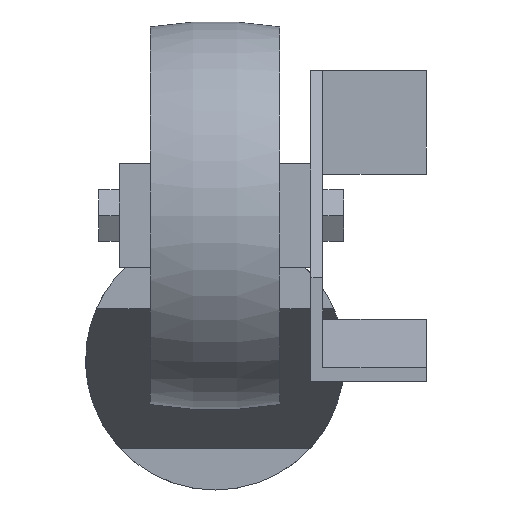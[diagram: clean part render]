
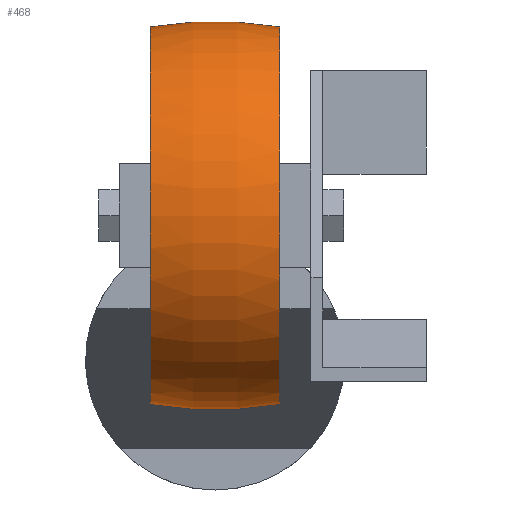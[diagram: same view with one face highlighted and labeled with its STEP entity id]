
A CAD part, front view. The second image highlights one B-rep face of the part: STEP entity #468.
In plain terms, the highlighted toroidal (fillet/blend) face has major radius 37.5 mm and minor radius 75 mm.
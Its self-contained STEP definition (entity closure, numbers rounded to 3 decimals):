
#5 = VERTEX_POINT ( 'NONE', #191 ) ;
#58 = ORIENTED_EDGE ( 'NONE', *, *, #850, .F. ) ;
#103 = AXIS2_PLACEMENT_3D ( 'NONE', #588, #443, #187 ) ;
#137 = CARTESIAN_POINT ( 'NONE',  ( 0., -61.5, 28. ) ) ;
#159 = DIRECTION ( 'NONE',  ( 0., 0., 1. ) ) ;
#187 = DIRECTION ( 'NONE',  ( 0., 0., 1. ) ) ;
#191 = CARTESIAN_POINT ( 'NONE',  ( 12.5, -61.5, -8.451 ) ) ;
#208 = DIRECTION ( 'NONE',  ( -1., 0., 0. ) ) ;
#218 = VERTEX_POINT ( 'NONE', #1290 ) ;
#229 = VERTEX_POINT ( 'NONE', #1730 ) ;
#272 = AXIS2_PLACEMENT_3D ( 'NONE', #137, #717, #159 ) ;
#305 = DIRECTION ( 'NONE',  ( 0., -1., 0. ) ) ;
#306 = ORIENTED_EDGE ( 'NONE', *, *, #944, .F. ) ;
#330 = EDGE_CURVE ( 'NONE', #5, #218, #1532, .T. ) ;
#348 = CARTESIAN_POINT ( 'NONE',  ( 0., -61.5, -9.5 ) ) ;
#354 = CARTESIAN_POINT ( 'NONE',  ( -12.5, -61.5, -8.451 ) ) ;
#443 = DIRECTION ( 'NONE',  ( 0., 1., 0. ) ) ;
#457 = EDGE_CURVE ( 'NONE', #218, #229, #1051, .T. ) ;
#468 = ADVANCED_FACE ( 'NONE', ( #1266 ), #942, .T. ) ;
#588 = CARTESIAN_POINT ( 'NONE',  ( 0., -61.5, 65.5 ) ) ;
#667 = CARTESIAN_POINT ( 'NONE',  ( 12.5, -61.5, 28. ) ) ;
#717 = DIRECTION ( 'NONE',  ( -1., 0., 0. ) ) ;
#723 = CIRCLE ( 'NONE', #1232, 36.451 ) ;
#836 = DIRECTION ( 'NONE',  ( -1., 0., 0. ) ) ;
#850 = EDGE_CURVE ( 'NONE', #5, #1341, #862, .T. ) ;
#862 = CIRCLE ( 'NONE', #103, 75. ) ;
#942 = TOROIDAL_SURFACE ( 'NONE', #272, -37.5, 75. ) ;
#944 = EDGE_CURVE ( 'NONE', #1341, #229, #723, .T. ) ;
#1051 = CIRCLE ( 'NONE', #1083, 75. ) ;
#1083 = AXIS2_PLACEMENT_3D ( 'NONE', #348, #305, #1525 ) ;
#1118 = EDGE_LOOP ( 'NONE', ( #58, #1163, #1135, #306 ) ) ;
#1135 = ORIENTED_EDGE ( 'NONE', *, *, #457, .T. ) ;
#1163 = ORIENTED_EDGE ( 'NONE', *, *, #330, .T. ) ;
#1232 = AXIS2_PLACEMENT_3D ( 'NONE', #1682, #208, #1734 ) ;
#1266 = FACE_OUTER_BOUND ( 'NONE', #1118, .T. ) ;
#1290 = CARTESIAN_POINT ( 'NONE',  ( 12.5, -61.5, 64.451 ) ) ;
#1341 = VERTEX_POINT ( 'NONE', #354 ) ;
#1368 = DIRECTION ( 'NONE',  ( 0., 0., 1. ) ) ;
#1387 = AXIS2_PLACEMENT_3D ( 'NONE', #667, #836, #1368 ) ;
#1525 = DIRECTION ( 'NONE',  ( 0., 0., -1. ) ) ;
#1532 = CIRCLE ( 'NONE', #1387, 36.451 ) ;
#1682 = CARTESIAN_POINT ( 'NONE',  ( -12.5, -61.5, 28. ) ) ;
#1730 = CARTESIAN_POINT ( 'NONE',  ( -12.5, -61.5, 64.451 ) ) ;
#1734 = DIRECTION ( 'NONE',  ( 0., 0., 1. ) ) ;
